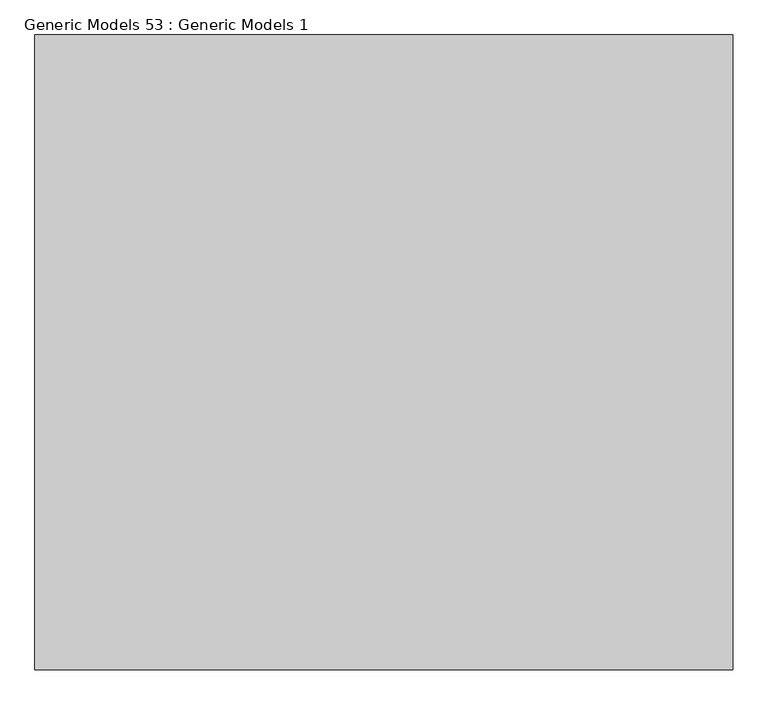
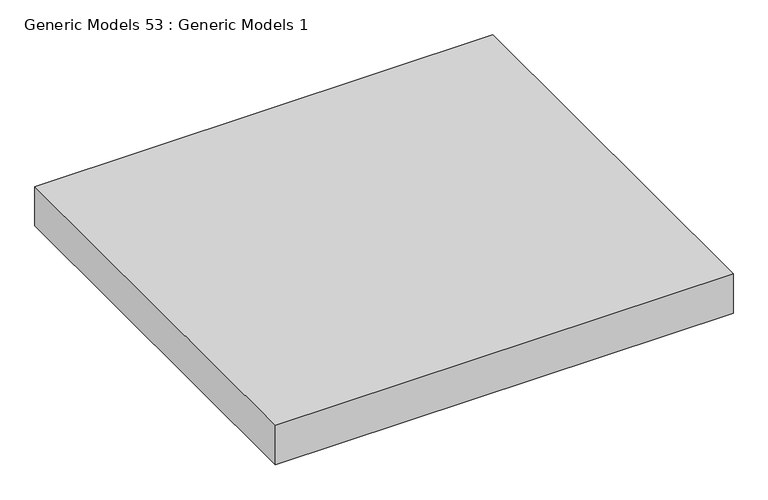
"""IFC4 building model written with IfcOpenShell, lengths in millimetres: proxy geometry, Generic Models 53 : Generic Models 1."""

from ifc_helpers import new_model, si_unit, origin, origin_with_axes, place, context, project, spatial, polyline, outline, extrude, source, transform, mapped, element, save


def generic_models_53_generic_models_1_e8810a95(model_context):
    return source(origin(), model_context, "Body", "SweptSolid", [
        extrude(outline(polyline([(95.1731655, -6624.1855869), (95.1731655, -5624.1855869), (1195.1731655, -5624.1855869), (1195.1731655, -6624.1855869), (95.1731655, -6624.1855869)])), origin_with_axes(), (0.0, 0.0, 1.0), 100.0),
    ])


if __name__ == "__main__":
    model = new_model("IFC4")
    model_context = context("Model", 3, world=origin())
    ifc_project = project(units=[si_unit("LENGTHUNIT", "METRE", prefix="MILLI")], contexts=[model_context])
    site = spatial("IfcSite", under=ifc_project)
    building = spatial("IfcBuilding", under=site)
    placement = place(None, origin())
    generic_models_53_generic_models_1_shape = generic_models_53_generic_models_1_e8810a95(model_context)
    element("IfcBuildingElementProxy", 1, Name="Generic Models 53 : Generic Models 1", ObjectType="Generic Models 53 : Generic Models 1", at=placement, inside=building, context=model_context, shape_type="MappedRepresentation", body=[
        mapped(generic_models_53_generic_models_1_shape, transform((0.0, 0.0, 0.0), x_axis=(1.0, 0.0, 0.0), y_axis=(0.0, 1.0, 0.0), z_axis=(0.0, 0.0, 1.0))),
    ])
    save(model, "model.ifc")
